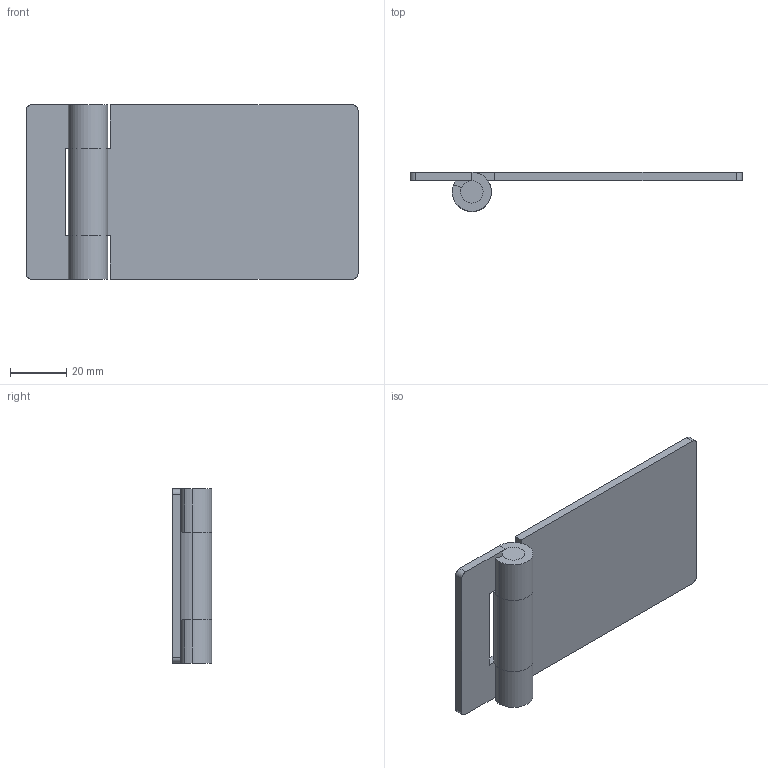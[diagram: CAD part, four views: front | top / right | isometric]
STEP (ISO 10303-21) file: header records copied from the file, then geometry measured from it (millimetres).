
FILE_DESCRIPTION (( 'STEP AP203' ), '1' );
FILE_NAME ('XG02-066-3.STEP', '2023-12-09T03:21:38', ( '' ), ( '' ), 'SwSTEP 2.0', 'SolidWorks 2020', '' );
FILE_SCHEMA (( 'CONFIG_CONTROL_DESIGN' ));
Length unit declared in the file: millimetre
Products named in the file (1): XG02-066-3
Bounding box: 118 x 14 x 62 mm (x, y, z)
Volume: 28768.4 mm3; surface area: 20753.2 mm2
Topology: 3 solids, 3 shells, 50 faces, 124 edges, 80 vertices
Faces by surface type: plane 26, cylinder 24
Entity records: 1565 total; most frequent: DIRECTION 274, CARTESIAN_POINT 255, ORIENTED_EDGE 248, EDGE_CURVE 124, AXIS2_PLACEMENT_3D 99, VERTEX_POINT 80, LINE 76, VECTOR 76
